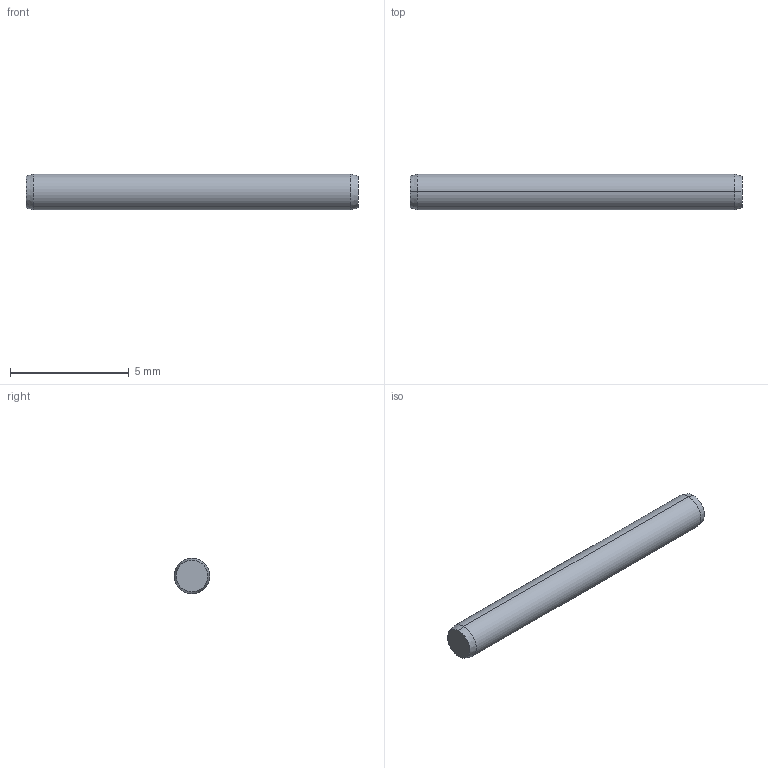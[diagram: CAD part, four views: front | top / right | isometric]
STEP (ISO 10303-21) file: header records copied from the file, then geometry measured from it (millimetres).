
FILE_DESCRIPTION (( 'STEP AP203' ), '1' );
FILE_NAME ('P1206.015-014.step', '2017-06-14T07:53:53', ( 'User' ), ( '' ), 'SwSTEP 2.0', 'SolidWorks 2009', '' );
FILE_SCHEMA (( 'CONFIG_CONTROL_DESIGN' ));
Length unit declared in the file: millimetre
Products named in the file (1): P1206.015-014
Bounding box: 14 x 1.5 x 1.5 mm (x, y, z)
Volume: 24.6 mm3; surface area: 68.7 mm2
Topology: 1 solids, 1 shells, 8 faces, 14 edges, 8 vertices
Faces by surface type: cone 4, cylinder 2, plane 2
Entity records: 271 total; most frequent: DIRECTION 40, CARTESIAN_POINT 31, ORIENTED_EDGE 28, AXIS2_PLACEMENT_3D 17, EDGE_CURVE 14, EDGE_LOOP 8, VERTEX_POINT 8, ADVANCED_FACE 8
